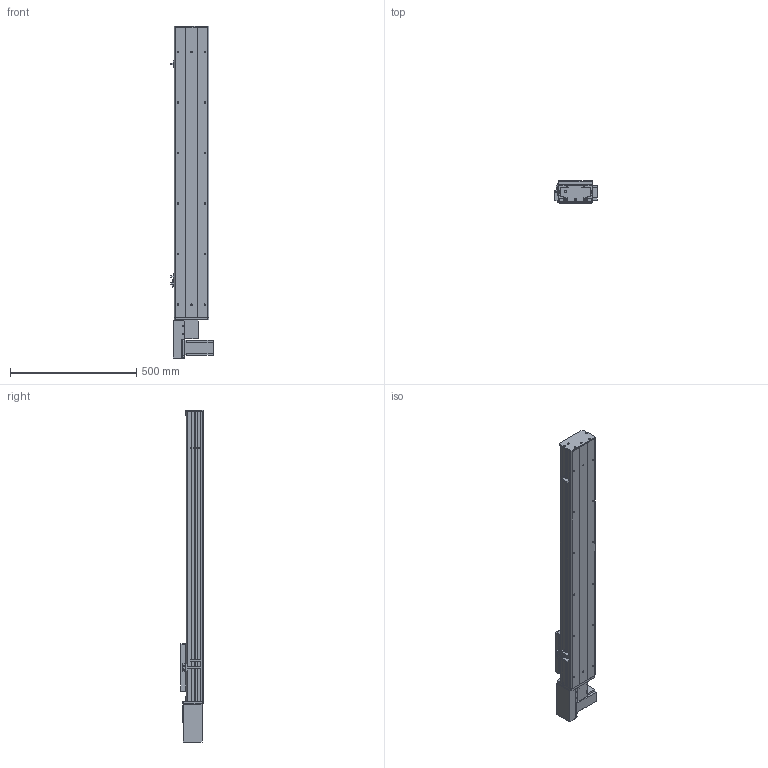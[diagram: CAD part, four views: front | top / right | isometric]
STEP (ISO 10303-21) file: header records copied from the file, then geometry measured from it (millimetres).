
FILE_DESCRIPTION (( 'STEP AP203' ), '1' );
FILE_NAME ('Y135CB-D90-S850-BR-P400W.STEP', '2020-02-18T02:19:51', ( '微软用户' ), ( '微软中国' ), 'SwSTEP 2.0', 'SolidWorks 2017', '' );
FILE_SCHEMA (( 'CONFIG_CONTROL_DESIGN' ));
Length unit declared in the file: millimetre
Products named in the file (18): 135CB--詩湍-CE; Y10B-耜蚾蟀諉啣----; Y100-135俋离換覜ん--; Y俋欶BR----; Y135C-陔俋离換覜結え-; 0B-埴倛裔啣; Y135CB-耜裔; 5C--俋欶; 0B-源倛裔啣; 135CB---遴掛极.-; C-雄赽釱--; 0B-萇儂楊擘啣; 35CB---喘謫眊楊擘啣; Y10B--々湍喘謫眊--666; san松下电机400不带刹车----; Y135CB-D90-S850-BR-P400W; 5CB --掛极耜裔啣-; C-詩湍揤踡え-陔
Assembly tree (21 placements, depth 2):
  Y135CB-D90-S850-BR-P400W
    Y135CB-耜裔
    135CB---遴掛极.-
    35CB---喘謫眊楊擘啣
    Y10B-耜蚾蟀諉啣----
    Y俋欶BR----
    0B-埴倛裔啣
    0B-源倛裔啣
    0B-萇儂楊擘啣
    san松下电机400不带刹车----
    5CB --掛极耜裔啣-  x2
    C-詩湍揤踡え-陔  x2
    135CB--詩湍-CE
    Y100-135俋离換覜ん--  x3
    Y135C-陔俋离換覜結え-
    5C--俋欶
    C-雄赽釱--
    Y10B--々湍喘謫眊--666
Bounding box: 167.5 x 91 x 1314.5 mm (x, y, z)
Volume: 3997822.6 mm3; surface area: 1560921.2 mm2
Topology: 21 solids, 21 shells, 941 faces, 2509 edges, 1662 vertices
Faces by surface type: cylinder 467, plane 458, cone 16
Entity records: 29139 total; most frequent: DIRECTION 4837, CARTESIAN_POINT 4768, ORIENTED_EDGE 4494, EDGE_CURVE 2247, AXIS2_PLACEMENT_3D 1759, VERTEX_POINT 1490, LINE 1319, VECTOR 1319
